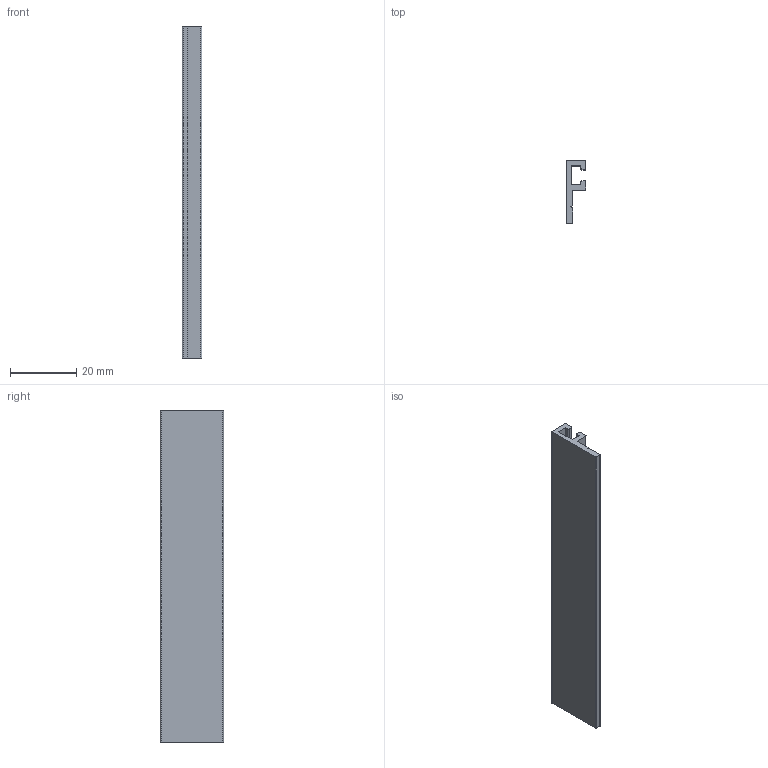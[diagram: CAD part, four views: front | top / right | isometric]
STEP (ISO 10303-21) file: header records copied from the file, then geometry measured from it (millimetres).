
FILE_DESCRIPTION (( 'STEP AP203' ), '1' );
FILE_NAME ('WSSNC03.STEP', '2024-02-19T12:15:17', ( '' ), ( '' ), 'SwSTEP 2.0', 'SolidWorks 2022', '' );
FILE_SCHEMA (( 'CONFIG_CONTROL_DESIGN' ));
Length unit declared in the file: millimetre
Products named in the file (1): WSSNC03
Bounding box: 6 x 19 x 100 mm (x, y, z)
Volume: 5137 mm3; surface area: 6423.8 mm2
Topology: 1 solids, 1 shells, 28 faces, 78 edges, 52 vertices
Faces by surface type: plane 19, cylinder 9
Entity records: 977 total; most frequent: CARTESIAN_POINT 159, ORIENTED_EDGE 156, DIRECTION 154, EDGE_CURVE 78, LINE 60, VECTOR 60, VERTEX_POINT 52, AXIS2_PLACEMENT_3D 47
